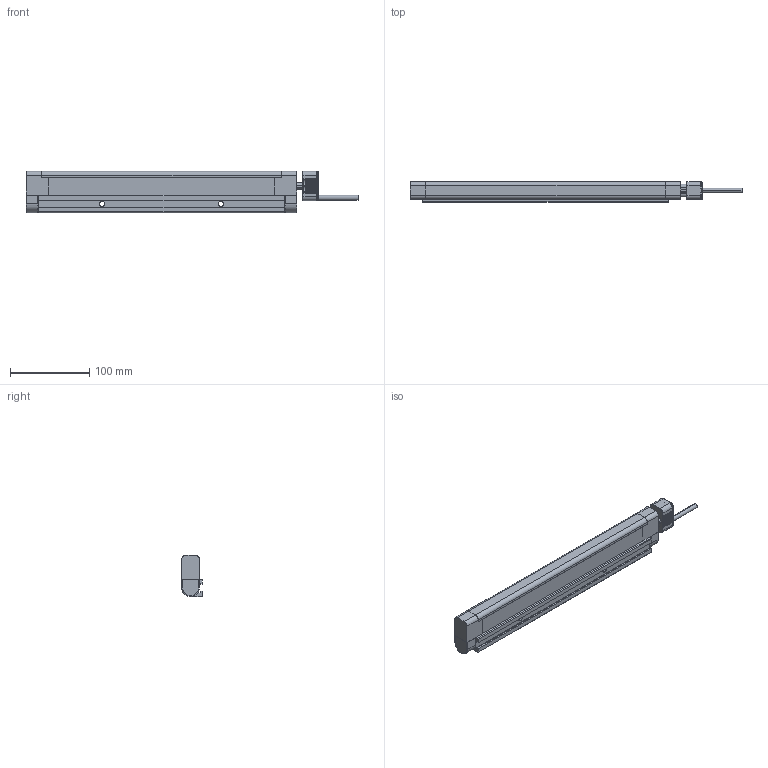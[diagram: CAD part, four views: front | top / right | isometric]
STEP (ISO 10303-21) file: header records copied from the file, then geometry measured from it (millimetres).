
FILE_DESCRIPTION (( 'STEP AP214' ), '1' );
FILE_NAME ('050PEL3C.STEP', '2019-09-26T14:03:54', ( '' ), ( '' ), 'SwSTEP 2.0', 'SolidWorks 2013', '' );
FILE_SCHEMA (( 'AUTOMOTIVE_DESIGN' ));
Length unit declared in the file: millimetre
Products named in the file (1): 050PEL3C
Bounding box: 419 x 25.8 x 52.1 mm (x, y, z)
Volume: 345649.7 mm3; surface area: 99423 mm2
Topology: 12 solids, 12 shells, 839 faces, 2208 edges, 1449 vertices
Faces by surface type: plane 524, cylinder 227, bspline 36, torus 34, cone 10, sphere 8
Entity records: 36074 total; most frequent: CARTESIAN_POINT 5883, ORIENTED_EDGE 4416, DIRECTION 4154, EDGE_CURVE 2208, VECTOR 1538, LINE 1538, VERTEX_POINT 1449, AXIS2_PLACEMENT_3D 1308
